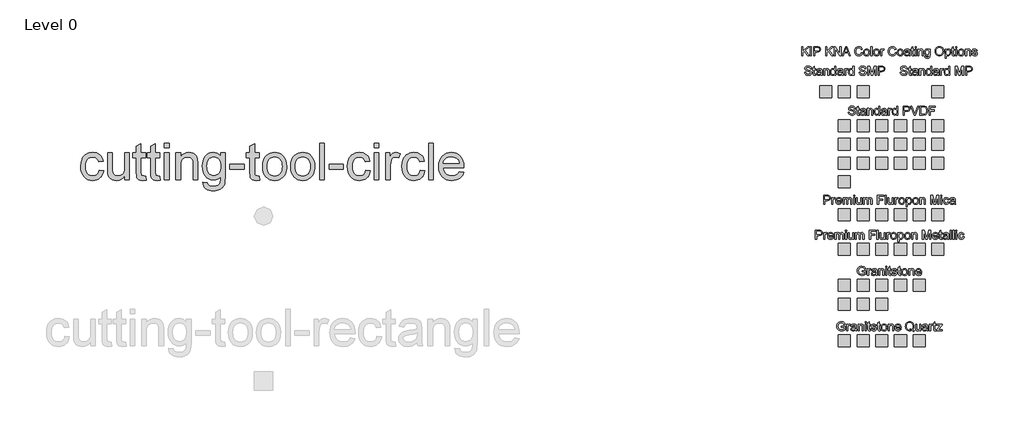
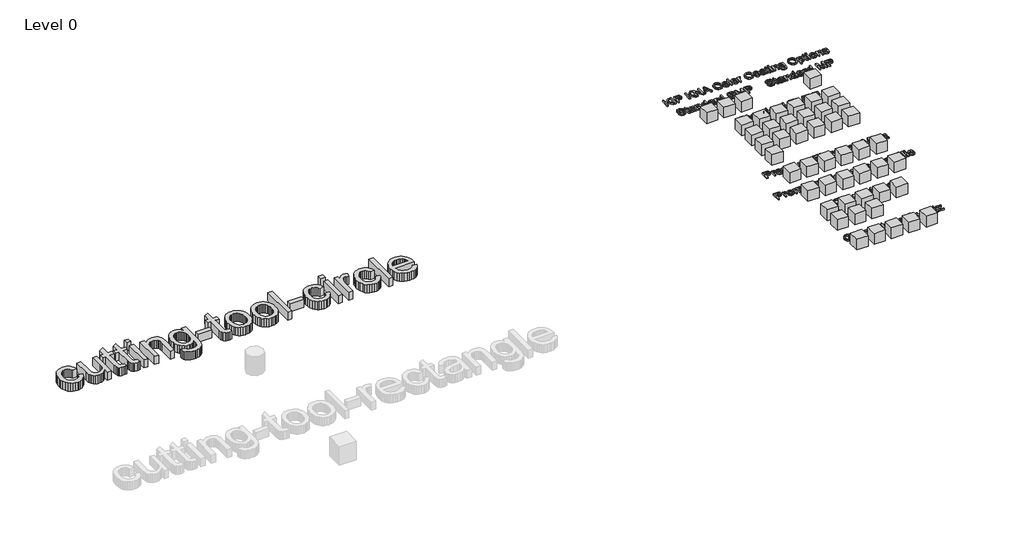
# One storey, part 3 of 3: 50 proxies.
"""IFC4 building model written with IfcOpenShell, lengths in millimetres."""

from ifc_helpers import new_model, si_unit, origin, origin_with_axes, place, context, project, spatial, polyline, outline, extrude, transform, mapped, element, save
from components import ks_color_sample_ks_color_sample_0243efec, r19_kna_color_range_kingspan_quadcore_4278cd54, r19_kna_color_range_kingspan_quadcore_c5814d20, r19_kna_color_range_kingspan_quadcore_91b79b7c

model = new_model("IFC4")

# Units and contexts
model_context = context("Model", 3, world=origin())
ifc_project = project(units=[si_unit("LENGTHUNIT", "METRE", prefix="MILLI")], contexts=[model_context])

# Site, building, storey
site = spatial("IfcSite", under=ifc_project)
building = spatial("IfcBuilding", under=site)
storey = spatial("IfcBuildingStorey", under=building, Name="Level 0", Elevation=0.0)

# Proxies
placement = place(None, origin())
element("IfcBuildingElementProxy", 1, Name="24\" Arial", ObjectType="24\" Arial", at=placement, inside=storey, context=model_context, shape_type="SweptSolid", body=[
    extrude(outline(polyline([(107.7420815, 12340.3391727), (183.883855, 12330.821451), (175.6023218, 12294.8929811), (162.6548742, 12263.1006304), (145.0415123, 12235.4443991), (122.762236, 12211.9242871), (96.7558051, 12193.1537412), (67.9609791, 12179.7462085), (36.3777581, 12171.7016888), (2.0061421, 12169.0201823), (-40.6981277, 12172.7612789), (-78.9874388, 12183.9845689), (-112.861791, 12202.6900522), (-142.3211845, 12228.8777288), (-166.1666093, 12262.0549823), (-183.1990556, 12301.7291962), (-193.4185233, 12347.9003705), (-196.8250126, 12400.5685052), (-191.0065616, 12468.3265044), (-183.7334979, 12498.817604), (-173.5512088, 12527.0501036), (-160.3899842, 12552.4570296), (-144.1801145, 12574.4714084), (-124.9215995, 12593.0932398), (-102.6144393, 12608.322524), (-78.2671034, 12620.1639082), (-52.8880613, 12628.6220398), (-26.4773131, 12633.6969187), (0.9651413, 12635.388545), (34.746547, 12633.0648825), (65.3027092, 12626.093895), (92.6336278, 12614.4755823), (116.7393028, 12598.2099447), (137.2107696, 12577.668768), (153.6390636, 12553.2238383), (166.0241849, 12524.8751555), (174.3661333, 12492.6227197), (98.2243598, 12483.104998), (84.4125098, 12516.3240774), (62.9046895, 12540.1369709), (34.8906141, 12554.4693214), (1.5599989, 12559.2467715), (-24.3116596, 12556.8952251), (-47.6458787, 12549.8405856), (-68.4426583, 12538.0828533), (-86.7019984, 12521.622028), (-101.5687912, 12500.0770291), (-112.1879289, 12473.0667759), (-118.5594115, 12440.5912685), (-120.6832391, 12402.6505069), (-118.6058848, 12364.1381242), (-112.3738219, 12331.2861835), (-101.9870504, 12304.0946846), (-87.4455704, 12282.5636277), (-69.5487216, 12266.2003962), (-49.0958441, 12254.5123738), (-26.0869378, 12247.4995603), (-0.5220027, 12245.1619558), (38.9059029, 12250.998996), (55.9569385, 12258.2952963), (71.2326959, 12268.5101168), (84.3056213, 12281.7549932), (94.7481607, 12298.1414613), (102.5603141, 12317.6695211), (107.7420815, 12340.3391727)])), origin_with_axes(), (0.0, 0.0, 1.0), 152.4),
    extrude(outline(polyline([(536.0395575, 12178.5379039), (536.0395575, 12255.4232495), (508.4902147, 12217.6219076), (476.4050826, 12190.6209491), (439.7841612, 12174.420374), (398.6274506, 12169.0201823), (361.5417968, 12172.8123995), (327.0214663, 12184.1890512), (298.0593367, 12201.2912074), (277.6482851, 12222.259938), (263.9107922, 12247.7272792), (254.9693389, 12278.3252673), (250.5079068, 12349.1133223), (250.5079068, 12625.8708234), (326.6496803, 12625.8708234), (326.6496803, 12384.9534931), (327.802217, 12336.770027), (331.2598268, 12307.3245756), (342.357639, 12281.4296804), (361.3744931, 12261.7436115), (387.0463166, 12249.3073697), (418.1090372, 12245.1619558), (450.9563306, 12249.4003162), (481.6844438, 12262.1153975), (507.0216599, 12282.1360738), (523.6962622, 12308.2912192), (532.9537337, 12344.1128006), (536.0395575, 12393.1327852), (536.0395575, 12625.8708234), (612.181331, 12625.8708234), (612.181331, 12178.5379039), (536.0395575, 12178.5379039)])), origin_with_axes(), (0.0, 0.0, 1.0), 152.4),
    extrude(outline(polyline([(878.6775383, 12242.0389533), (888.19526, 12176.3071879), (858.0434151, 12170.8419337), (831.2376443, 12169.0201823), (794.6910801, 12172.1803633), (767.4391661, 12181.6609064), (748.1806511, 12196.2720963), (735.6142842, 12214.8242179), (728.6990645, 12246.6862784), (726.3939913, 12301.2272851), (726.3939913, 12549.7290498), (669.2876612, 12549.7290498), (669.2876612, 12625.8708234), (726.3939913, 12625.8708234), (726.3939913, 12734.5810508), (802.5357648, 12779.3440856), (802.5357648, 12625.8708234), (878.6775383, 12625.8708234), (878.6775383, 12549.7290498), (802.5357648, 12549.7290498), (802.5357648, 12303.4580011), (806.5510537, 12264.1973991), (819.5635638, 12250.2926026), (830.5498402, 12246.4446175), (845.5142268, 12245.1619558), (878.6775383, 12242.0389533)])), origin_with_axes(), (0.0, 0.0, 1.0), 152.4),
    extrude(outline(polyline([(1116.6205806, 12242.0389533), (1126.1383023, 12176.3071879), (1095.9864574, 12170.8419337), (1069.1806865, 12169.0201823), (1032.6341224, 12172.1803633), (1005.3822083, 12181.6609064), (986.1236934, 12196.2720963), (973.5573264, 12214.8242179), (966.6421068, 12246.6862784), (964.3370335, 12301.2272851), (964.3370335, 12549.7290498), (907.2307034, 12549.7290498), (907.2307034, 12625.8708234), (964.3370335, 12625.8708234), (964.3370335, 12734.5810508), (1040.4788071, 12779.3440856), (1040.4788071, 12625.8708234), (1116.6205806, 12625.8708234), (1116.6205806, 12549.7290498), (1040.4788071, 12549.7290498), (1040.4788071, 12303.4580011), (1044.4940959, 12264.1973991), (1057.506606, 12250.2926026), (1068.4928824, 12246.4446175), (1083.4572691, 12245.1619558), (1116.6205806, 12242.0389533)])), origin_with_axes(), (0.0, 0.0, 1.0), 152.4),
    extrude(outline(polyline([(1192.7623541, 12711.5303186), (1192.7623541, 12787.6720921), (1268.9041276, 12787.6720921), (1268.9041276, 12711.5303186), (1192.7623541, 12711.5303186)])), origin_with_axes(), (0.0, 0.0, 1.0), 152.4),
    extrude(outline(polyline([(1192.7623541, 12178.5379039), (1192.7623541, 12625.8708234), (1268.9041276, 12625.8708234), (1268.9041276, 12178.5379039), (1192.7623541, 12178.5379039)])), origin_with_axes(), (0.0, 0.0, 1.0), 152.4),
    extrude(outline(polyline([(1383.1167879, 12178.5379039), (1383.1167879, 12625.8708234), (1459.2585614, 12625.8708234), (1459.2585614, 12563.4107748), (1485.7111356, 12594.9010493), (1517.4802496, 12617.3941025), (1554.5659034, 12630.8899344), (1596.9680971, 12635.388545), (1634.4998942, 12631.7636315), (1668.8715102, 12620.8888909), (1697.5362111, 12604.1213422), (1717.9472626, 12582.8180041), (1731.7962913, 12557.0346448), (1740.7749233, 12526.827032), (1744.7902121, 12453.2134033), (1744.7902121, 12178.5379039), (1668.6484386, 12178.5379039), (1668.6484386, 12442.9521096), (1666.4549012, 12482.3242474), (1659.8742889, 12510.3197335), (1647.7354759, 12530.3775884), (1628.8673362, 12545.9368326), (1604.6826567, 12555.9192868), (1576.5942241, 12559.2467715), (1553.473782, 12557.3785469), (1531.998493, 12551.7738729), (1512.168357, 12542.4327495), (1493.9833741, 12529.3551768), (1478.7912686, 12511.0540108), (1467.9397646, 12486.0421074), (1461.4288622, 12454.3194667), (1459.2585614, 12415.8860886), (1459.2585614, 12178.5379039), (1383.1167879, 12178.5379039)])), origin_with_axes(), (0.0, 0.0, 1.0), 152.4),
    extrude(outline(polyline([(1830.4497073, 12140.4670172), (1906.5914808, 12130.9492955), (1914.9938445, 12107.1549913), (1931.2780715, 12090.7964071), (1963.2888464, 12078.0813258), (2005.1891289, 12073.8429654), (2049.8778066, 12078.6390048), (2067.928017, 12084.6340541), (2083.1154753, 12093.0271231), (2106.1662075, 12116.0778554), (2120.2940756, 12146.8617364), (2124.4209003, 12179.6160834), (2125.4990797, 12235.6442341), (2100.1618635, 12210.6602146), (2071.887538, 12192.8144865), (2040.676103, 12182.1070496), (2006.5275586, 12178.5379039), (1964.7806377, 12182.6926125), (1928.0249439, 12195.1567383), (1896.2604772, 12215.9302812), (1869.4872377, 12245.0132414), (1848.2443149, 12279.9053578), (1833.0707986, 12318.1063697), (1823.9666889, 12359.6162769), (1820.9319856, 12404.4350797), (1826.3786506, 12465.9098953), (1842.7186454, 12522.4399572), (1854.8295745, 12547.930535), (1869.3757019, 12570.3445837), (1886.3570276, 12589.6821032), (1905.7735516, 12605.9430936), (1927.3139032, 12618.8254786), (1950.6667115, 12628.0271822), (1975.8319766, 12633.5482043), (2002.8096985, 12635.388545), (2038.417503, 12631.2245418), (2070.7350014, 12618.7325321), (2099.7621936, 12597.9125159), (2125.4990797, 12568.7644932), (2125.4990797, 12625.8708234), (2201.6408532, 12625.8708234), (2201.6408532, 12239.6595229), (2196.4358491, 12150.48665), (2189.9295941, 12117.3186911), (2180.820837, 12091.7630507), (2168.8911536, 12071.1521642), (2153.9221196, 12052.8184669), (2135.9137351, 12036.7619588), (2114.866, 12022.9826401), (2090.9926912, 12011.9220065), (2064.5075858, 12004.0215539), (2035.4106837, 11999.2812824), (2003.7019849, 11997.7011918), (1966.3979068, 11999.9272605), (1932.858162, 12006.6054666), (1903.0827504, 12017.7358101), (1877.0716721, 12033.318291), (1856.0611156, 12053.3714985), (1841.2872693, 12077.9140221), (1832.7501332, 12106.9458616), (1830.4497073, 12140.4670172)]), holes=[polyline([(1897.0737591, 12409.6400837), (1899.1046402, 12371.9921035), (1905.1972833, 12339.800083), (1915.3516885, 12313.064022), (1929.5678558, 12291.7839206), (1946.8512577, 12275.5508142), (1966.2073665, 12263.9557382), (1987.6361823, 12256.9986927), (2011.137705, 12254.6796775), (2034.4068615, 12256.9847507), (2055.7334361, 12263.8999703), (2075.1174289, 12275.4253365), (2092.5588398, 12291.560849), (2106.9701947, 12312.6318208), (2117.2640197, 12338.9635645), (2123.4403147, 12370.5560801), (2125.4990797, 12407.4093677), (2123.3798995, 12442.7243907), (2117.0223588, 12473.4199726), (2106.4264577, 12499.4961134), (2091.5921962, 12520.9528132), (2073.7743519, 12537.70642), (2054.2277028, 12549.6732819), (2032.9522488, 12556.8533991), (2009.9479898, 12559.2467715), (1987.3294588, 12556.8905777), (1966.4676167, 12549.8219963), (1947.3624634, 12538.0410274), (1930.013999, 12521.5476708), (1915.6026441, 12500.4162838), (1905.3088191, 12474.7212236), (1899.1325241, 12444.4624903), (1897.0737591, 12409.6400837)])]), origin_with_axes(), (0.0, 0.0, 1.0), 152.4),
    extrude(outline(polyline([(2277.7826267, 12359.374616), (2277.7826267, 12435.5163896), (2515.725669, 12435.5163896), (2515.725669, 12359.374616), (2277.7826267, 12359.374616)])), origin_with_axes(), (0.0, 0.0, 1.0), 152.4),
    extrude(outline(polyline([(2763.1864329, 12242.0389533), (2772.7041546, 12176.3071879), (2742.5523097, 12170.8419337), (2715.7465388, 12169.0201823), (2679.1999747, 12172.1803633), (2651.9480606, 12181.6609064), (2632.6895457, 12196.2720963), (2620.1231787, 12214.8242179), (2613.2079591, 12246.6862784), (2610.9028859, 12301.2272851), (2610.9028859, 12549.7290498), (2553.7965557, 12549.7290498), (2553.7965557, 12625.8708234), (2610.9028859, 12625.8708234), (2610.9028859, 12734.5810508), (2687.0446594, 12779.3440856), (2687.0446594, 12625.8708234), (2763.1864329, 12625.8708234), (2763.1864329, 12549.7290498), (2687.0446594, 12549.7290498), (2687.0446594, 12303.4580011), (2691.0599482, 12264.1973991), (2704.0724583, 12250.2926026), (2715.0587347, 12246.4446175), (2730.0231214, 12245.1619558), (2763.1864329, 12242.0389533)])), origin_with_axes(), (0.0, 0.0, 1.0), 152.4),
    extrude(outline(polyline([(2820.292763, 12402.2043636), (2824.410293, 12460.1379176), (2836.762883, 12510.0594833), (2857.3505329, 12551.9690605), (2886.1732428, 12585.8666494), (2915.1911404, 12607.5324787), (2947.2205046, 12623.0080711), (2982.2613354, 12632.2934266), (3020.3136329, 12635.388545), (3062.320804, 12631.6195644), (3100.3033916, 12620.3126226), (3134.2613957, 12601.4677196), (3164.1948163, 12575.0848553), (3188.625804, 12542.0563162), (3206.0765096, 12503.2743887), (3216.5469329, 12458.7390728), (3220.037074, 12408.4503685), (3218.4941621, 12367.6933279), (3213.8654263, 12331.5278444), (3206.1508668, 12299.953918), (3195.3504834, 12272.9715488), (3181.5990486, 12249.6652137), (3165.0313348, 12229.1193897), (3145.647342, 12211.3340768), (3123.4470703, 12196.3092749), (3099.294922, 12184.3702969), (3074.0552997, 12175.8424554), (3047.7282033, 12170.7257505), (3020.3136329, 12169.0201823), (2977.6930149, 12172.7752209), (2939.3572306, 12184.0403368), (2905.30628, 12202.81553), (2875.5401631, 12229.1008004), (2851.3694256, 12262.4500049), (2834.1046131, 12302.4170003), (2823.7457255, 12349.0017865), (2820.292763, 12402.2043636)]), holes=[polyline([(2896.4345365, 12402.3530781), (2898.6373686, 12365.4207859), (2905.2458648, 12333.4425423), (2916.2600252, 12306.4183472), (2931.6798497, 12284.3482005), (2950.4364535, 12267.2042185), (2971.460952, 12254.958517), (2994.7533452, 12247.6110961), (3020.3136329, 12245.1619558), (3045.7437955, 12247.625038), (3068.9432422, 12255.0142849), (3089.9119728, 12267.3296962), (3108.6499873, 12284.5712721), (3124.0698118, 12306.8598431), (3135.0839722, 12334.3162394), (3141.6924684, 12366.9404612), (3143.8953005, 12404.7325085), (3141.6785264, 12440.4936747), (3135.0282043, 12471.6353998), (3123.9443341, 12498.1576838), (3108.4269157, 12520.0605268), (3089.6191913, 12537.2045088), (3068.6644027, 12549.4502103), (3045.5625499, 12556.7976312), (3020.3136329, 12559.2467715), (2994.7533452, 12556.8069259), (2971.460952, 12549.4873889), (2950.4364535, 12537.2881607), (2931.6798497, 12520.2092412), (2916.2600252, 12498.2041571), (2905.2458648, 12471.2264352), (2898.6373686, 12439.2760755), (2896.4345365, 12402.3530781)])]), origin_with_axes(), (0.0, 0.0, 1.0), 152.4),
    extrude(outline(polyline([(3286.6611258, 12402.2043636), (3290.7786558, 12460.1379176), (3303.1312458, 12510.0594833), (3323.7188957, 12551.9690605), (3352.5416056, 12585.8666494), (3381.5595032, 12607.5324787), (3413.5888674, 12623.0080711), (3448.6296982, 12632.2934266), (3486.6819957, 12635.388545), (3528.6891668, 12631.6195644), (3566.6717544, 12620.3126226), (3600.6297584, 12601.4677196), (3630.5631791, 12575.0848553), (3654.9941668, 12542.0563162), (3672.4448723, 12503.2743887), (3682.9152957, 12458.7390728), (3686.4054368, 12408.4503685), (3684.8625249, 12367.6933279), (3680.2337891, 12331.5278444), (3672.5192296, 12299.953918), (3661.7188461, 12272.9715488), (3647.9674113, 12249.6652137), (3631.3996976, 12229.1193897), (3612.0157048, 12211.3340768), (3589.8154331, 12196.3092749), (3565.6632848, 12184.3702969), (3540.4236625, 12175.8424554), (3514.0965661, 12170.7257505), (3486.6819957, 12169.0201823), (3444.0613777, 12172.7752209), (3405.7255934, 12184.0403368), (3371.6746428, 12202.81553), (3341.9085259, 12229.1008004), (3317.7377884, 12262.4500049), (3300.4729758, 12302.4170003), (3290.1140883, 12349.0017865), (3286.6611258, 12402.2043636)]), holes=[polyline([(3362.8028993, 12402.3530781), (3365.0057314, 12365.4207859), (3371.6142276, 12333.4425423), (3382.628388, 12306.4183472), (3398.0482125, 12284.3482005), (3416.8048163, 12267.2042185), (3437.8293148, 12254.958517), (3461.121708, 12247.6110961), (3486.6819957, 12245.1619558), (3512.1121583, 12247.625038), (3535.311605, 12255.0142849), (3556.2803356, 12267.3296962), (3575.0183501, 12284.5712721), (3590.4381746, 12306.8598431), (3601.452335, 12334.3162394), (3608.0608312, 12366.9404612), (3610.2636633, 12404.7325085), (3608.0468892, 12440.4936747), (3601.3965671, 12471.6353998), (3590.3126969, 12498.1576838), (3574.7952785, 12520.0605268), (3555.9875541, 12537.2045088), (3535.0327655, 12549.4502103), (3511.9309127, 12556.7976312), (3486.6819957, 12559.2467715), (3461.121708, 12556.8069259), (3437.8293148, 12549.4873889), (3416.8048163, 12537.2881607), (3398.0482125, 12520.2092412), (3382.628388, 12498.2041571), (3371.6142276, 12471.2264352), (3365.0057314, 12439.2760755), (3362.8028993, 12402.3530781)])]), origin_with_axes(), (0.0, 0.0, 1.0), 152.4),
    extrude(outline(polyline([(3772.064932, 12178.5379039), (3772.064932, 12787.6720921), (3848.2067055, 12787.6720921), (3848.2067055, 12178.5379039), (3772.064932, 12178.5379039)])), origin_with_axes(), (0.0, 0.0, 1.0), 152.4),
    extrude(outline(polyline([(3924.348479, 12359.374616), (3924.348479, 12435.5163896), (4162.2915213, 12435.5163896), (4162.2915213, 12359.374616), (3924.348479, 12359.374616)])), origin_with_axes(), (0.0, 0.0, 1.0), 152.4),
    extrude(outline(polyline([(4533.4826672, 12340.3391727), (4609.6244407, 12330.821451), (4601.3429074, 12294.8929811), (4588.3954599, 12263.1006304), (4570.782098, 12235.4443991), (4548.5028217, 12211.9242871), (4522.4963908, 12193.1537412), (4493.7015648, 12179.7462085), (4462.1183438, 12171.7016888), (4427.7467278, 12169.0201823), (4385.0424579, 12172.7612789), (4346.7531469, 12183.9845689), (4312.8787947, 12202.6900522), (4283.4194012, 12228.8777288), (4259.5739764, 12262.0549823), (4242.5415301, 12301.7291962), (4232.3220623, 12347.9003705), (4228.9155731, 12400.5685052), (4234.734024, 12468.3265044), (4242.0070877, 12498.817604), (4252.1893769, 12527.0501036), (4265.3506014, 12552.4570296), (4281.5604712, 12574.4714084), (4300.8189862, 12593.0932398), (4323.1261464, 12608.322524), (4347.4734823, 12620.1639082), (4372.8525243, 12628.6220398), (4399.2632726, 12633.6969187), (4426.705727, 12635.388545), (4460.4871327, 12633.0648825), (4491.0432949, 12626.093895), (4518.3742134, 12614.4755823), (4542.4798884, 12598.2099447), (4562.9513553, 12577.668768), (4579.3796493, 12553.2238383), (4591.7647705, 12524.8751555), (4600.106719, 12492.6227197), (4523.9649455, 12483.104998), (4510.1530954, 12516.3240774), (4488.6452751, 12540.1369709), (4460.6311998, 12554.4693214), (4427.3005846, 12559.2467715), (4401.428926, 12556.8952251), (4378.094707, 12549.8405856), (4357.2979274, 12538.0828533), (4339.0385873, 12521.622028), (4324.1717945, 12500.0770291), (4313.5526568, 12473.0667759), (4307.1811742, 12440.5912685), (4305.0573466, 12402.6505069), (4307.1347009, 12364.1381242), (4313.3667638, 12331.2861835), (4323.7535353, 12304.0946846), (4338.2950153, 12282.5636277), (4356.1918641, 12266.2003962), (4376.6447416, 12254.5123738), (4399.6536479, 12247.4995603), (4425.2185829, 12245.1619558), (4464.6464886, 12250.998996), (4481.6975242, 12258.2952963), (4496.9732816, 12268.5101168), (4510.046207, 12281.7549932), (4520.4887463, 12298.1414613), (4528.3008997, 12317.6695211), (4533.4826672, 12340.3391727)])), origin_with_axes(), (0.0, 0.0, 1.0), 152.4),
    extrude(outline(polyline([(4676.2484925, 12711.5303186), (4676.2484925, 12787.6720921), (4752.390266, 12787.6720921), (4752.390266, 12711.5303186), (4676.2484925, 12711.5303186)])), origin_with_axes(), (0.0, 0.0, 1.0), 152.4),
    extrude(outline(polyline([(4676.2484925, 12178.5379039), (4676.2484925, 12625.8708234), (4752.390266, 12625.8708234), (4752.390266, 12178.5379039), (4676.2484925, 12178.5379039)])), origin_with_axes(), (0.0, 0.0, 1.0), 152.4),
    extrude(outline(polyline([(4866.6029263, 12178.5379039), (4866.6029263, 12625.8708234), (4933.2269781, 12625.8708234), (4933.2269781, 12559.6929147), (4957.8392116, 12598.0612303), (4980.5181578, 12620.6658193), (5003.2714612, 12631.7078636), (5028.1067662, 12635.388545), (5066.0289386, 12629.5143262), (5104.5459685, 12611.8916696), (5079.1158059, 12543.6317594), (5052.3472136, 12555.3430185), (5025.5786214, 12559.2467715), (5002.8439073, 12555.4917329), (4982.5258022, 12544.226617), (4966.1114501, 12526.3065316), (4955.0879951, 12502.5865846), (4945.8305236, 12460.0542658), (4942.7446998, 12413.6553726), (4942.7446998, 12178.5379039), (4866.6029263, 12178.5379039)])), origin_with_axes(), (0.0, 0.0, 1.0), 152.4),
    extrude(outline(polyline([(5437.6662277, 12340.3391727), (5513.8080012, 12330.821451), (5505.526468, 12294.8929811), (5492.5790204, 12263.1006304), (5474.9656585, 12235.4443991), (5452.6863822, 12211.9242871), (5426.6799513, 12193.1537412), (5397.8851253, 12179.7462085), (5366.3019043, 12171.7016888), (5331.9302883, 12169.0201823), (5289.2260185, 12172.7612789), (5250.9367074, 12183.9845689), (5217.0623552, 12202.6900522), (5187.6029617, 12228.8777288), (5163.7575369, 12262.0549823), (5146.7250906, 12301.7291962), (5136.5056229, 12347.9003705), (5133.0991336, 12400.5685052), (5138.9175846, 12468.3265044), (5146.1906483, 12498.817604), (5156.3729374, 12527.0501036), (5169.5341619, 12552.4570296), (5185.7440317, 12574.4714084), (5205.0025467, 12593.0932398), (5227.3097069, 12608.322524), (5251.6570428, 12620.1639082), (5277.0360849, 12628.6220398), (5303.4468331, 12633.6969187), (5330.8892875, 12635.388545), (5364.6706932, 12633.0648825), (5395.2268554, 12626.093895), (5422.557774, 12614.4755823), (5446.663449, 12598.2099447), (5467.1349158, 12577.668768), (5483.5632098, 12553.2238383), (5495.948331, 12524.8751555), (5504.2902795, 12492.6227197), (5428.148506, 12483.104998), (5414.336656, 12516.3240774), (5392.8288357, 12540.1369709), (5364.8147603, 12554.4693214), (5331.4841451, 12559.2467715), (5305.6124866, 12556.8952251), (5282.2782675, 12549.8405856), (5261.4814879, 12538.0828533), (5243.2221478, 12521.622028), (5228.355355, 12500.0770291), (5217.7362173, 12473.0667759), (5211.3647347, 12440.5912685), (5209.2409071, 12402.6505069), (5211.3182614, 12364.1381242), (5217.5503243, 12331.2861835), (5227.9370958, 12304.0946846), (5242.4785758, 12282.5636277), (5260.3754246, 12266.2003962), (5280.8283021, 12254.5123738), (5303.8372084, 12247.4995603), (5329.4021435, 12245.1619558), (5368.8300491, 12250.998996), (5385.8810847, 12258.2952963), (5401.1568421, 12268.5101168), (5414.2297675, 12281.7549932), (5424.6723069, 12298.1414613), (5432.4844603, 12317.6695211), (5437.6662277, 12340.3391727)])), origin_with_axes(), (0.0, 0.0, 1.0), 152.4),
    extrude(outline(polyline([(5580.432053, 12178.5379039), (5580.432053, 12787.6720921), (5656.5738265, 12787.6720921), (5656.5738265, 12178.5379039), (5580.432053, 12178.5379039)])), origin_with_axes(), (0.0, 0.0, 1.0), 152.4),
    extrude(outline(polyline([(6083.9790162, 12311.7860076), (6158.6336457, 12302.2682859), (6147.1872841, 12272.3673966), (6131.7349283, 12246.0170636), (6112.2765784, 12223.2172869), (6088.8122342, 12203.9680666), (6061.5835568, 12188.6783672), (6030.832207, 12177.7571533), (5996.5581848, 12171.204425), (5958.7614902, 12169.0201823), (5911.5167838, 12172.7891629), (5869.4213135, 12184.0961047), (5832.4750794, 12202.9410077), (5800.6780815, 12229.323872), (5775.1084991, 12262.5104202), (5756.8445117, 12301.7663748), (5745.8861192, 12347.091736), (5742.2333217, 12398.4865036), (5745.9232978, 12451.6240182), (5756.9932261, 12498.45976), (5775.4431065, 12538.993729), (5801.2729391, 12573.2259253), (5832.9862852, 12600.4220714), (5869.0867061, 12619.8478901), (5909.5742019, 12631.5033813), (5954.4487725, 12635.388545), (5997.8780251, 12631.512676), (6037.152569, 12619.8850687), (6072.2724044, 12600.5057233), (6103.2375311, 12573.3746397), (6128.5143321, 12539.2168006), (6146.5691899, 12498.7571888), (6157.4021045, 12451.9958042), (6161.0130761, 12398.9326468), (6160.5669329, 12378.4100594), (5818.3750953, 12378.4100594), (5822.7854067, 12348.0258483), (5831.5549091, 12321.4152651), (5844.6836023, 12298.5783098), (5862.1714865, 12279.5149825), (5883.0519179, 12264.4855333), (5906.358253, 12253.7502125), (5932.0904918, 12247.3090199), (5960.2486342, 12245.1619558), (6000.7733086, 12249.140066), (6034.9032637, 12261.0743967), (6062.6384996, 12281.7085199), (6083.9790162, 12311.7860076)]), holes=[polyline([(5818.3750953, 12454.5518329), (6084.8713026, 12454.5518329), (6074.5728303, 12494.7790785), (6065.7150287, 12510.598573), (6054.3848503, 12523.5553152), (6033.620602, 12539.1703273), (6009.9936015, 12550.3239074), (5983.5038487, 12557.0160555), (5954.1513437, 12559.2467715), (5927.3781042, 12557.466846), (5902.826286, 12552.1270696), (5880.4958891, 12543.2274421), (5860.3869137, 12530.7679637), (5843.5124764, 12515.3249025), (5830.8856943, 12497.474527), (5822.5065672, 12477.2168372), (5818.3750953, 12454.5518329)])]), origin_with_axes(), (0.0, 0.0, 1.0), 152.4),
])
ks_color_sample_ks_color_sample_shape = ks_color_sample_ks_color_sample_0243efec(model_context)
element("IfcBuildingElementProxy", 2, Name="KS_Color Sample : KS_Color Sample", ObjectType="KS_Color Sample : KS_Color Sample", at=placement, inside=storey, context=model_context, shape_type="MappedRepresentation", body=[
    mapped(ks_color_sample_ks_color_sample_shape, transform((12166.5853815, 13639.2290821, 0.0), x_axis=(1.0, 0.0, 0.0), y_axis=(0.0, 1.0, 0.0), z_axis=(0.0, 0.0, 1.0))),
])
element("IfcBuildingElementProxy", 3, Name="KS_Color Sample : KS_Color Sample", ObjectType="KS_Color Sample : KS_Color Sample", at=placement, inside=storey, context=model_context, shape_type="MappedRepresentation", body=[
    mapped(ks_color_sample_ks_color_sample_shape, transform((12476.5853815, 13639.2290821, 0.0), x_axis=(1.0, 0.0, 0.0), y_axis=(0.0, 1.0, 0.0), z_axis=(0.0, 0.0, 1.0))),
])
element("IfcBuildingElementProxy", 4, Name="KS_Color Sample : KS_Color Sample", ObjectType="KS_Color Sample : KS_Color Sample", at=placement, inside=storey, context=model_context, shape_type="MappedRepresentation", body=[
    mapped(ks_color_sample_ks_color_sample_shape, transform((12786.5853815, 13639.2290821, 0.0), x_axis=(1.0, 0.0, 0.0), y_axis=(0.0, 1.0, 0.0), z_axis=(0.0, 0.0, 1.0))),
])
element("IfcBuildingElementProxy", 5, Name="KS_Color Sample : KS_Color Sample", ObjectType="KS_Color Sample : KS_Color Sample", at=placement, inside=storey, context=model_context, shape_type="MappedRepresentation", body=[
    mapped(ks_color_sample_ks_color_sample_shape, transform((14026.5853815, 13639.2290821, 0.0), x_axis=(1.0, 0.0, 0.0), y_axis=(0.0, 1.0, 0.0), z_axis=(0.0, 0.0, 1.0))),
])
element("IfcBuildingElementProxy", 6, Name="KS_Color Sample : KS_Color Sample", ObjectType="KS_Color Sample : KS_Color Sample", at=placement, inside=storey, context=model_context, shape_type="MappedRepresentation", body=[
    mapped(ks_color_sample_ks_color_sample_shape, transform((12786.5853815, 13079.2290821, 0.0), x_axis=(1.0, 0.0, 0.0), y_axis=(0.0, 1.0, 0.0), z_axis=(0.0, 0.0, 1.0))),
])
element("IfcBuildingElementProxy", 7, Name="KS_Color Sample : KS_Color Sample", ObjectType="KS_Color Sample : KS_Color Sample", at=placement, inside=storey, context=model_context, shape_type="MappedRepresentation", body=[
    mapped(ks_color_sample_ks_color_sample_shape, transform((13096.5853815, 13079.2290821, 0.0), x_axis=(1.0, 0.0, 0.0), y_axis=(0.0, 1.0, 0.0), z_axis=(0.0, 0.0, 1.0))),
])
element("IfcBuildingElementProxy", 8, Name="KS_Color Sample : KS_Color Sample", ObjectType="KS_Color Sample : KS_Color Sample", at=placement, inside=storey, context=model_context, shape_type="MappedRepresentation", body=[
    mapped(ks_color_sample_ks_color_sample_shape, transform((13406.5853815, 13079.2290821, 0.0), x_axis=(1.0, 0.0, 0.0), y_axis=(0.0, 1.0, 0.0), z_axis=(0.0, 0.0, 1.0))),
])
element("IfcBuildingElementProxy", 9, Name="KS_Color Sample : KS_Color Sample", ObjectType="KS_Color Sample : KS_Color Sample", at=placement, inside=storey, context=model_context, shape_type="MappedRepresentation", body=[
    mapped(ks_color_sample_ks_color_sample_shape, transform((13716.5853815, 13079.2290821, 0.0), x_axis=(1.0, 0.0, 0.0), y_axis=(0.0, 1.0, 0.0), z_axis=(0.0, 0.0, 1.0))),
])
element("IfcBuildingElementProxy", 10, Name="KS_Color Sample : KS_Color Sample", ObjectType="KS_Color Sample : KS_Color Sample", at=placement, inside=storey, context=model_context, shape_type="MappedRepresentation", body=[
    mapped(ks_color_sample_ks_color_sample_shape, transform((12476.5853815, 11599.2290821, 0.0), x_axis=(1.0, 0.0, 0.0), y_axis=(0.0, 1.0, 0.0), z_axis=(0.0, 0.0, 1.0))),
])
element("IfcBuildingElementProxy", 11, Name="KS_Color Sample : KS_Color Sample", ObjectType="KS_Color Sample : KS_Color Sample", at=placement, inside=storey, context=model_context, shape_type="MappedRepresentation", body=[
    mapped(ks_color_sample_ks_color_sample_shape, transform((12786.5853815, 11599.2290821, 0.0), x_axis=(1.0, 0.0, 0.0), y_axis=(0.0, 1.0, 0.0), z_axis=(0.0, 0.0, 1.0))),
])
element("IfcBuildingElementProxy", 12, Name="KS_Color Sample : KS_Color Sample", ObjectType="KS_Color Sample : KS_Color Sample", at=placement, inside=storey, context=model_context, shape_type="MappedRepresentation", body=[
    mapped(ks_color_sample_ks_color_sample_shape, transform((13096.5853815, 11599.2290821, 0.0), x_axis=(1.0, 0.0, 0.0), y_axis=(0.0, 1.0, 0.0), z_axis=(0.0, 0.0, 1.0))),
])
element("IfcBuildingElementProxy", 13, Name="KS_Color Sample : KS_Color Sample", ObjectType="KS_Color Sample : KS_Color Sample", at=placement, inside=storey, context=model_context, shape_type="MappedRepresentation", body=[
    mapped(ks_color_sample_ks_color_sample_shape, transform((13406.5853815, 11599.2290821, 0.0), x_axis=(1.0, 0.0, 0.0), y_axis=(0.0, 1.0, 0.0), z_axis=(0.0, 0.0, 1.0))),
])
element("IfcBuildingElementProxy", 14, Name="KS_Color Sample : KS_Color Sample", ObjectType="KS_Color Sample : KS_Color Sample", at=placement, inside=storey, context=model_context, shape_type="MappedRepresentation", body=[
    mapped(ks_color_sample_ks_color_sample_shape, transform((14026.5853815, 13079.2290821, 0.0), x_axis=(1.0, 0.0, 0.0), y_axis=(0.0, 1.0, 0.0), z_axis=(0.0, 0.0, 1.0))),
])
element("IfcBuildingElementProxy", 15, Name="KS_Color Sample : KS_Color Sample", ObjectType="KS_Color Sample : KS_Color Sample", at=placement, inside=storey, context=model_context, shape_type="MappedRepresentation", body=[
    mapped(ks_color_sample_ks_color_sample_shape, transform((13716.5853815, 12769.2290821, 0.0), x_axis=(1.0, 0.0, 0.0), y_axis=(0.0, 1.0, 0.0), z_axis=(0.0, 0.0, 1.0))),
])
element("IfcBuildingElementProxy", 16, Name="KS_Color Sample : KS_Color Sample", ObjectType="KS_Color Sample : KS_Color Sample", at=placement, inside=storey, context=model_context, shape_type="MappedRepresentation", body=[
    mapped(ks_color_sample_ks_color_sample_shape, transform((14026.5853815, 12769.2290821, 0.0), x_axis=(1.0, 0.0, 0.0), y_axis=(0.0, 1.0, 0.0), z_axis=(0.0, 0.0, 1.0))),
])
element("IfcBuildingElementProxy", 17, Name="KS_Color Sample : KS_Color Sample", ObjectType="KS_Color Sample : KS_Color Sample", at=placement, inside=storey, context=model_context, shape_type="MappedRepresentation", body=[
    mapped(ks_color_sample_ks_color_sample_shape, transform((12476.5853815, 12769.2290821, 0.0), x_axis=(1.0, 0.0, 0.0), y_axis=(0.0, 1.0, 0.0), z_axis=(0.0, 0.0, 1.0))),
])
element("IfcBuildingElementProxy", 18, Name="KS_Color Sample : KS_Color Sample", ObjectType="KS_Color Sample : KS_Color Sample", at=placement, inside=storey, context=model_context, shape_type="MappedRepresentation", body=[
    mapped(ks_color_sample_ks_color_sample_shape, transform((13096.5853815, 12769.2290821, 0.0), x_axis=(1.0, 0.0, 0.0), y_axis=(0.0, 1.0, 0.0), z_axis=(0.0, 0.0, 1.0))),
])
element("IfcBuildingElementProxy", 19, Name="KS_Color Sample : KS_Color Sample", ObjectType="KS_Color Sample : KS_Color Sample", at=placement, inside=storey, context=model_context, shape_type="MappedRepresentation", body=[
    mapped(ks_color_sample_ks_color_sample_shape, transform((13406.5853815, 12769.2290821, 0.0), x_axis=(1.0, 0.0, 0.0), y_axis=(0.0, 1.0, 0.0), z_axis=(0.0, 0.0, 1.0))),
])
element("IfcBuildingElementProxy", 20, Name="KS_Color Sample : KS_Color Sample", ObjectType="KS_Color Sample : KS_Color Sample", at=placement, inside=storey, context=model_context, shape_type="MappedRepresentation", body=[
    mapped(ks_color_sample_ks_color_sample_shape, transform((12476.5853815, 12459.2290821, 0.0), x_axis=(1.0, 0.0, 0.0), y_axis=(0.0, 1.0, 0.0), z_axis=(0.0, 0.0, 1.0))),
])
element("IfcBuildingElementProxy", 21, Name="KS_Color Sample : KS_Color Sample", ObjectType="KS_Color Sample : KS_Color Sample", at=placement, inside=storey, context=model_context, shape_type="MappedRepresentation", body=[
    mapped(ks_color_sample_ks_color_sample_shape, transform((12786.5853815, 12459.2290821, 0.0), x_axis=(1.0, 0.0, 0.0), y_axis=(0.0, 1.0, 0.0), z_axis=(0.0, 0.0, 1.0))),
])
element("IfcBuildingElementProxy", 22, Name="KS_Color Sample : KS_Color Sample", ObjectType="KS_Color Sample : KS_Color Sample", at=placement, inside=storey, context=model_context, shape_type="MappedRepresentation", body=[
    mapped(ks_color_sample_ks_color_sample_shape, transform((13096.5853815, 12459.2290821, 0.0), x_axis=(1.0, 0.0, 0.0), y_axis=(0.0, 1.0, 0.0), z_axis=(0.0, 0.0, 1.0))),
])
element("IfcBuildingElementProxy", 23, Name="KS_Color Sample : KS_Color Sample", ObjectType="KS_Color Sample : KS_Color Sample", at=placement, inside=storey, context=model_context, shape_type="MappedRepresentation", body=[
    mapped(ks_color_sample_ks_color_sample_shape, transform((13406.5853815, 12459.2290821, 0.0), x_axis=(1.0, 0.0, 0.0), y_axis=(0.0, 1.0, 0.0), z_axis=(0.0, 0.0, 1.0))),
])
element("IfcBuildingElementProxy", 24, Name="KS_Color Sample : KS_Color Sample", ObjectType="KS_Color Sample : KS_Color Sample", at=placement, inside=storey, context=model_context, shape_type="MappedRepresentation", body=[
    mapped(ks_color_sample_ks_color_sample_shape, transform((13716.5853815, 12459.2290821, 0.0), x_axis=(1.0, 0.0, 0.0), y_axis=(0.0, 1.0, 0.0), z_axis=(0.0, 0.0, 1.0))),
])
element("IfcBuildingElementProxy", 25, Name="KS_Color Sample : KS_Color Sample", ObjectType="KS_Color Sample : KS_Color Sample", at=placement, inside=storey, context=model_context, shape_type="MappedRepresentation", body=[
    mapped(ks_color_sample_ks_color_sample_shape, transform((14026.5853815, 12459.2290821, 0.0), x_axis=(1.0, 0.0, 0.0), y_axis=(0.0, 1.0, 0.0), z_axis=(0.0, 0.0, 1.0))),
])
element("IfcBuildingElementProxy", 26, Name="KS_Color Sample : KS_Color Sample", ObjectType="KS_Color Sample : KS_Color Sample", at=placement, inside=storey, context=model_context, shape_type="MappedRepresentation", body=[
    mapped(ks_color_sample_ks_color_sample_shape, transform((12476.5853815, 12149.2290821, 0.0), x_axis=(1.0, 0.0, 0.0), y_axis=(0.0, 1.0, 0.0), z_axis=(0.0, 0.0, 1.0))),
])
element("IfcBuildingElementProxy", 27, Name="KS_Color Sample : KS_Color Sample", ObjectType="KS_Color Sample : KS_Color Sample", at=placement, inside=storey, context=model_context, shape_type="MappedRepresentation", body=[
    mapped(ks_color_sample_ks_color_sample_shape, transform((13716.5853815, 11599.2290821, 0.0), x_axis=(1.0, 0.0, 0.0), y_axis=(0.0, 1.0, 0.0), z_axis=(0.0, 0.0, 1.0))),
])
element("IfcBuildingElementProxy", 28, Name="KS_Color Sample : KS_Color Sample", ObjectType="KS_Color Sample : KS_Color Sample", at=placement, inside=storey, context=model_context, shape_type="MappedRepresentation", body=[
    mapped(ks_color_sample_ks_color_sample_shape, transform((14026.5853815, 11599.2290821, 0.0), x_axis=(1.0, 0.0, 0.0), y_axis=(0.0, 1.0, 0.0), z_axis=(0.0, 0.0, 1.0))),
])
element("IfcBuildingElementProxy", 29, Name="KS_Color Sample : KS_Color Sample", ObjectType="KS_Color Sample : KS_Color Sample", at=placement, inside=storey, context=model_context, shape_type="MappedRepresentation", body=[
    mapped(ks_color_sample_ks_color_sample_shape, transform((12476.5853815, 11029.2290821, 0.0), x_axis=(1.0, 0.0, 0.0), y_axis=(0.0, 1.0, 0.0), z_axis=(0.0, 0.0, 1.0))),
])
element("IfcBuildingElementProxy", 30, Name="KS_Color Sample : KS_Color Sample", ObjectType="KS_Color Sample : KS_Color Sample", at=placement, inside=storey, context=model_context, shape_type="MappedRepresentation", body=[
    mapped(ks_color_sample_ks_color_sample_shape, transform((12786.5853815, 11029.2290821, 0.0), x_axis=(1.0, 0.0, 0.0), y_axis=(0.0, 1.0, 0.0), z_axis=(0.0, 0.0, 1.0))),
])
element("IfcBuildingElementProxy", 31, Name="KS_Color Sample : KS_Color Sample", ObjectType="KS_Color Sample : KS_Color Sample", at=placement, inside=storey, context=model_context, shape_type="MappedRepresentation", body=[
    mapped(ks_color_sample_ks_color_sample_shape, transform((13096.5853815, 11029.2290821, 0.0), x_axis=(1.0, 0.0, 0.0), y_axis=(0.0, 1.0, 0.0), z_axis=(0.0, 0.0, 1.0))),
])
element("IfcBuildingElementProxy", 32, Name="KS_Color Sample : KS_Color Sample", ObjectType="KS_Color Sample : KS_Color Sample", at=placement, inside=storey, context=model_context, shape_type="MappedRepresentation", body=[
    mapped(ks_color_sample_ks_color_sample_shape, transform((13406.5853815, 11029.2290821, 0.0), x_axis=(1.0, 0.0, 0.0), y_axis=(0.0, 1.0, 0.0), z_axis=(0.0, 0.0, 1.0))),
])
element("IfcBuildingElementProxy", 33, Name="KS_Color Sample : KS_Color Sample", ObjectType="KS_Color Sample : KS_Color Sample", at=placement, inside=storey, context=model_context, shape_type="MappedRepresentation", body=[
    mapped(ks_color_sample_ks_color_sample_shape, transform((13716.5853815, 11029.2290821, 0.0), x_axis=(1.0, 0.0, 0.0), y_axis=(0.0, 1.0, 0.0), z_axis=(0.0, 0.0, 1.0))),
])
element("IfcBuildingElementProxy", 34, Name="KS_Color Sample : KS_Color Sample", ObjectType="KS_Color Sample : KS_Color Sample", at=placement, inside=storey, context=model_context, shape_type="MappedRepresentation", body=[
    mapped(ks_color_sample_ks_color_sample_shape, transform((14026.5853815, 11029.2290821, 0.0), x_axis=(1.0, 0.0, 0.0), y_axis=(0.0, 1.0, 0.0), z_axis=(0.0, 0.0, 1.0))),
])
element("IfcBuildingElementProxy", 35, Name="KS_Color Sample : KS_Color Sample", ObjectType="KS_Color Sample : KS_Color Sample", at=placement, inside=storey, context=model_context, shape_type="MappedRepresentation", body=[
    mapped(ks_color_sample_ks_color_sample_shape, transform((12476.5853815, 10429.2290821, 0.0), x_axis=(1.0, 0.0, 0.0), y_axis=(0.0, 1.0, 0.0), z_axis=(0.0, 0.0, 1.0))),
])
element("IfcBuildingElementProxy", 36, Name="KS_Color Sample : KS_Color Sample", ObjectType="KS_Color Sample : KS_Color Sample", at=placement, inside=storey, context=model_context, shape_type="MappedRepresentation", body=[
    mapped(ks_color_sample_ks_color_sample_shape, transform((12786.5853815, 10429.2290821, 0.0), x_axis=(1.0, 0.0, 0.0), y_axis=(0.0, 1.0, 0.0), z_axis=(0.0, 0.0, 1.0))),
])
element("IfcBuildingElementProxy", 37, Name="KS_Color Sample : KS_Color Sample", ObjectType="KS_Color Sample : KS_Color Sample", at=placement, inside=storey, context=model_context, shape_type="MappedRepresentation", body=[
    mapped(ks_color_sample_ks_color_sample_shape, transform((13096.5853815, 10429.2290821, 0.0), x_axis=(1.0, 0.0, 0.0), y_axis=(0.0, 1.0, 0.0), z_axis=(0.0, 0.0, 1.0))),
])
element("IfcBuildingElementProxy", 38, Name="KS_Color Sample : KS_Color Sample", ObjectType="KS_Color Sample : KS_Color Sample", at=placement, inside=storey, context=model_context, shape_type="MappedRepresentation", body=[
    mapped(ks_color_sample_ks_color_sample_shape, transform((13406.5853815, 10429.2290821, 0.0), x_axis=(1.0, 0.0, 0.0), y_axis=(0.0, 1.0, 0.0), z_axis=(0.0, 0.0, 1.0))),
])
element("IfcBuildingElementProxy", 39, Name="KS_Color Sample : KS_Color Sample", ObjectType="KS_Color Sample : KS_Color Sample", at=placement, inside=storey, context=model_context, shape_type="MappedRepresentation", body=[
    mapped(ks_color_sample_ks_color_sample_shape, transform((13716.5853815, 10429.2290821, 0.0), x_axis=(1.0, 0.0, 0.0), y_axis=(0.0, 1.0, 0.0), z_axis=(0.0, 0.0, 1.0))),
])
element("IfcBuildingElementProxy", 40, Name="KS_Color Sample : KS_Color Sample", ObjectType="KS_Color Sample : KS_Color Sample", at=placement, inside=storey, context=model_context, shape_type="MappedRepresentation", body=[
    mapped(ks_color_sample_ks_color_sample_shape, transform((12476.5853815, 10119.2290821, 0.0), x_axis=(1.0, 0.0, 0.0), y_axis=(0.0, 1.0, 0.0), z_axis=(0.0, 0.0, 1.0))),
])
element("IfcBuildingElementProxy", 41, Name="KS_Color Sample : KS_Color Sample", ObjectType="KS_Color Sample : KS_Color Sample", at=placement, inside=storey, context=model_context, shape_type="MappedRepresentation", body=[
    mapped(ks_color_sample_ks_color_sample_shape, transform((12786.5853815, 10119.2290821, 0.0), x_axis=(1.0, 0.0, 0.0), y_axis=(0.0, 1.0, 0.0), z_axis=(0.0, 0.0, 1.0))),
])
element("IfcBuildingElementProxy", 42, Name="KS_Color Sample : KS_Color Sample", ObjectType="KS_Color Sample : KS_Color Sample", at=placement, inside=storey, context=model_context, shape_type="MappedRepresentation", body=[
    mapped(ks_color_sample_ks_color_sample_shape, transform((13096.5853815, 10119.2290821, 0.0), x_axis=(1.0, 0.0, 0.0), y_axis=(0.0, 1.0, 0.0), z_axis=(0.0, 0.0, 1.0))),
])
element("IfcBuildingElementProxy", 43, Name="KS_Color Sample : KS_Color Sample", ObjectType="KS_Color Sample : KS_Color Sample", at=placement, inside=storey, context=model_context, shape_type="MappedRepresentation", body=[
    mapped(ks_color_sample_ks_color_sample_shape, transform((12476.5853815, 9509.2290821, 0.0), x_axis=(1.0, 0.0, 0.0), y_axis=(0.0, 1.0, 0.0), z_axis=(0.0, 0.0, 1.0))),
])
element("IfcBuildingElementProxy", 44, Name="KS_Color Sample : KS_Color Sample", ObjectType="KS_Color Sample : KS_Color Sample", at=placement, inside=storey, context=model_context, shape_type="MappedRepresentation", body=[
    mapped(ks_color_sample_ks_color_sample_shape, transform((12786.5853815, 9509.2290821, 0.0), x_axis=(1.0, 0.0, 0.0), y_axis=(0.0, 1.0, 0.0), z_axis=(0.0, 0.0, 1.0))),
])
element("IfcBuildingElementProxy", 45, Name="KS_Color Sample : KS_Color Sample", ObjectType="KS_Color Sample : KS_Color Sample", at=placement, inside=storey, context=model_context, shape_type="MappedRepresentation", body=[
    mapped(ks_color_sample_ks_color_sample_shape, transform((13096.5853815, 9509.2290821, 0.0), x_axis=(1.0, 0.0, 0.0), y_axis=(0.0, 1.0, 0.0), z_axis=(0.0, 0.0, 1.0))),
])
element("IfcBuildingElementProxy", 46, Name="KS_Color Sample : KS_Color Sample", ObjectType="KS_Color Sample : KS_Color Sample", at=placement, inside=storey, context=model_context, shape_type="MappedRepresentation", body=[
    mapped(ks_color_sample_ks_color_sample_shape, transform((13406.5853815, 9509.2290821, 0.0), x_axis=(1.0, 0.0, 0.0), y_axis=(0.0, 1.0, 0.0), z_axis=(0.0, 0.0, 1.0))),
])
element("IfcBuildingElementProxy", 47, Name="KS_Color Sample : KS_Color Sample", ObjectType="KS_Color Sample : KS_Color Sample", at=placement, inside=storey, context=model_context, shape_type="MappedRepresentation", body=[
    mapped(ks_color_sample_ks_color_sample_shape, transform((13716.5853815, 9509.2290821, 0.0), x_axis=(1.0, 0.0, 0.0), y_axis=(0.0, 1.0, 0.0), z_axis=(0.0, 0.0, 1.0))),
])
element("IfcBuildingElementProxy", 48, Name="KS_Color Sample : KS_Color Sample", ObjectType="KS_Color Sample : KS_Color Sample", at=placement, inside=storey, context=model_context, shape_type="MappedRepresentation", body=[
    mapped(ks_color_sample_ks_color_sample_shape, transform((12476.5853815, 13079.2290821, 0.0), x_axis=(1.0, 0.0, 0.0), y_axis=(0.0, 1.0, 0.0), z_axis=(0.0, 0.0, 1.0))),
])
element("IfcBuildingElementProxy", 49, Name="KS_Color Sample : KS_Color Sample", ObjectType="KS_Color Sample : KS_Color Sample", at=placement, inside=storey, context=model_context, shape_type="MappedRepresentation", body=[
    mapped(ks_color_sample_ks_color_sample_shape, transform((12786.5853815, 12769.2290821, 0.0), x_axis=(1.0, 0.0, 0.0), y_axis=(0.0, 1.0, 0.0), z_axis=(0.0, 0.0, 1.0))),
])
r19_kna_color_range_kingspan_quadcore_shape = r19_kna_color_range_kingspan_quadcore_4278cd54(model_context)
r19_kna_color_range_kingspan_quadcore_2_shape = r19_kna_color_range_kingspan_quadcore_c5814d20(model_context)
r19_kna_color_range_kingspan_quadcore_3_shape = r19_kna_color_range_kingspan_quadcore_91b79b7c(model_context)
element("IfcBuildingElementProxy", 50, Name="R19_KNA_Color Range : Kingspan Quadcore", ObjectType="R19_KNA_Color Range : Kingspan Quadcore", at=placement, inside=storey, context=model_context, shape_type="MappedRepresentation", body=[
    mapped(r19_kna_color_range_kingspan_quadcore_shape, transform((13221.5853815, 13539.2290821, 0.0), x_axis=(1.0, 0.0, 0.0), y_axis=(0.0, 1.0, 0.0), z_axis=(0.0, 0.0, 1.0))),
    mapped(r19_kna_color_range_kingspan_quadcore_2_shape, transform((13221.5853815, 13539.2290821, 0.0), x_axis=(1.0, 0.0, 0.0), y_axis=(0.0, 1.0, 0.0), z_axis=(0.0, 0.0, 1.0))),
    mapped(r19_kna_color_range_kingspan_quadcore_3_shape, transform((13221.5853815, 13539.2290821, 0.0), x_axis=(1.0, 0.0, 0.0), y_axis=(0.0, 1.0, 0.0), z_axis=(0.0, 0.0, 1.0))),
])

save(model, "model.ifc")
